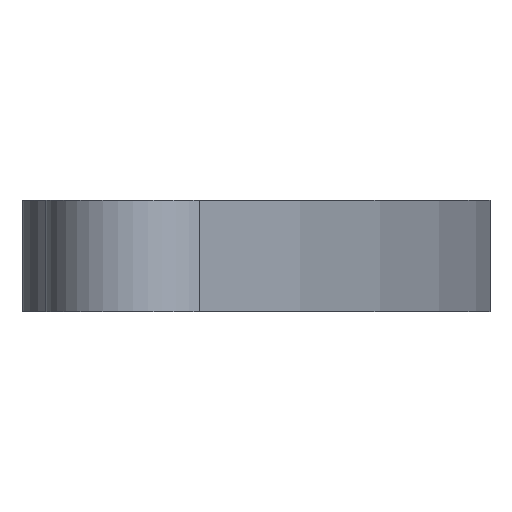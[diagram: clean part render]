
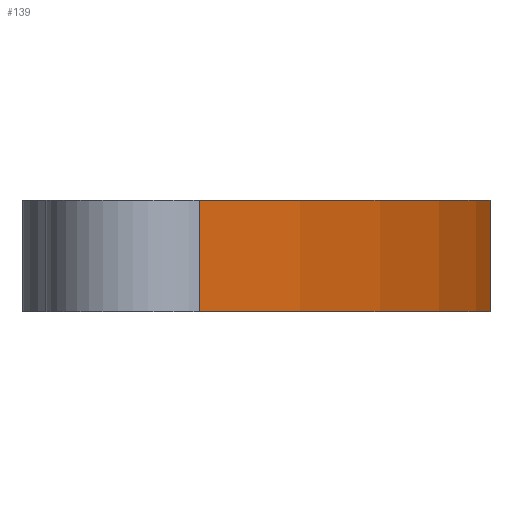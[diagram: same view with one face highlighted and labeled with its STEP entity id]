
A CAD part, front view. The second image highlights one B-rep face of the part: STEP entity #139.
In plain terms, the highlighted cylindrical face has radius 76.569 mm (diameter 153.139 mm), a partial arc.
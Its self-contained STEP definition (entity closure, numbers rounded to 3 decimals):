
#23=FACE_OUTER_BOUND('',#31,.T.);
#31=EDGE_LOOP('',(#103,#104,#105,#106));
#43=LINE('',#251,#49);
#44=LINE('',#254,#50);
#49=VECTOR('',#205,10.);
#50=VECTOR('',#208,10.);
#57=CIRCLE('',#172,76.569);
#58=CIRCLE('',#173,76.569);
#69=VERTEX_POINT('',#247);
#70=VERTEX_POINT('',#248);
#71=VERTEX_POINT('',#250);
#72=VERTEX_POINT('',#252);
#83=EDGE_CURVE('',#69,#70,#57,.T.);
#84=EDGE_CURVE('',#70,#71,#43,.T.);
#85=EDGE_CURVE('',#72,#71,#58,.T.);
#86=EDGE_CURVE('',#69,#72,#44,.T.);
#103=ORIENTED_EDGE('',*,*,#83,.T.);
#104=ORIENTED_EDGE('',*,*,#84,.T.);
#105=ORIENTED_EDGE('',*,*,#85,.F.);
#106=ORIENTED_EDGE('',*,*,#86,.F.);
#133=CYLINDRICAL_SURFACE('',#171,76.569);
#139=ADVANCED_FACE('',(#23),#133,.T.);
#171=AXIS2_PLACEMENT_3D('',#246,#201,#202);
#172=AXIS2_PLACEMENT_3D('',#249,#203,#204);
#173=AXIS2_PLACEMENT_3D('',#253,#206,#207);
#201=DIRECTION('center_axis',(0.,0.,1.));
#202=DIRECTION('ref_axis',(0.761,-0.649,0.));
#203=DIRECTION('center_axis',(0.,0.,1.));
#204=DIRECTION('ref_axis',(0.761,-0.649,0.));
#205=DIRECTION('',(0.,0.,1.));
#206=DIRECTION('center_axis',(0.,0.,1.));
#207=DIRECTION('ref_axis',(0.761,-0.649,0.));
#208=DIRECTION('',(0.,0.,1.));
#246=CARTESIAN_POINT('Origin',(-54.069,-43.777,0.));
#247=CARTESIAN_POINT('',(4.184,-93.469,0.));
#248=CARTESIAN_POINT('',(5.44,4.405,0.));
#249=CARTESIAN_POINT('Origin',(-54.069,-43.777,0.));
#250=CARTESIAN_POINT('',(5.44,4.405,7.));
#251=CARTESIAN_POINT('',(5.44,4.405,0.));
#252=CARTESIAN_POINT('',(4.184,-93.469,7.));
#253=CARTESIAN_POINT('Origin',(-54.069,-43.777,7.));
#254=CARTESIAN_POINT('',(4.184,-93.469,0.));
